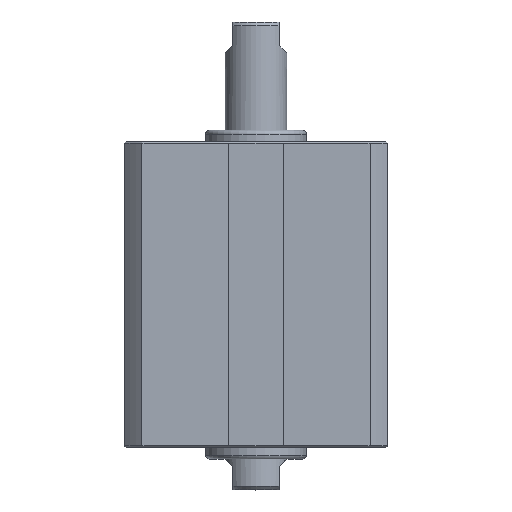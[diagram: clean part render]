
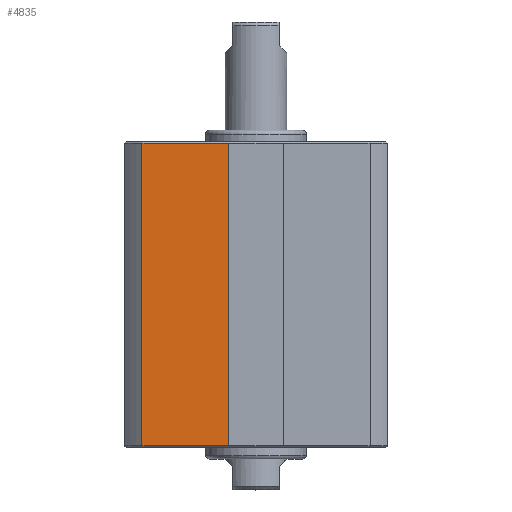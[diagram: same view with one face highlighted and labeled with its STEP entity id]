
A CAD part, top view. The second image highlights one B-rep face of the part: STEP entity #4835.
In plain terms, the highlighted planar face has unit normal (0, 0, 1).
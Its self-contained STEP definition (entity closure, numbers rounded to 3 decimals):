
#124=LINE('',#6725,#400);
#126=LINE('',#6729,#402);
#127=LINE('',#6731,#403);
#128=LINE('',#6733,#404);
#400=VECTOR('',#5775,1000.);
#402=VECTOR('',#5779,1000.);
#403=VECTOR('',#5780,1000.);
#404=VECTOR('',#5781,1000.);
#676=PLANE('',#5168);
#1087=ORIENTED_EDGE('',*,*,#1825,.F.);
#1088=ORIENTED_EDGE('',*,*,#1827,.T.);
#1089=ORIENTED_EDGE('',*,*,#1828,.T.);
#1090=ORIENTED_EDGE('',*,*,#1829,.T.);
#1825=EDGE_CURVE('',#2234,#2235,#124,.T.);
#1827=EDGE_CURVE('',#2234,#2236,#126,.T.);
#1828=EDGE_CURVE('',#2236,#2237,#127,.T.);
#1829=EDGE_CURVE('',#2237,#2235,#128,.T.);
#2234=VERTEX_POINT('',#6724);
#2235=VERTEX_POINT('',#6726);
#2236=VERTEX_POINT('',#6730);
#2237=VERTEX_POINT('',#6732);
#2681=EDGE_LOOP('',(#1087,#1088,#1089,#1090));
#2979=FACE_BOUND('',#2681,.T.);
#4835=ADVANCED_FACE('',(#2979),#676,.T.);
#5168=AXIS2_PLACEMENT_3D('',#6728,#5777,#5778);
#5775=DIRECTION('',(0.,-1.,0.));
#5777=DIRECTION('',(0.,0.,1.));
#5778=DIRECTION('',(1.,0.,0.));
#5779=DIRECTION('',(-1.,0.,0.));
#5780=DIRECTION('',(0.,-1.,0.));
#5781=DIRECTION('',(1.,0.,0.));
#6724=CARTESIAN_POINT('',(-3.55,39.3,16.997));
#6725=CARTESIAN_POINT('',(-3.55,29.5,16.997));
#6726=CARTESIAN_POINT('',(-3.55,0.2,16.997));
#6728=CARTESIAN_POINT('',(-3.55,29.5,16.997));
#6729=CARTESIAN_POINT('',(-3.55,39.3,16.997));
#6730=CARTESIAN_POINT('',(-14.741,39.3,16.997));
#6731=CARTESIAN_POINT('',(-14.741,29.5,16.997));
#6732=CARTESIAN_POINT('',(-14.741,0.2,16.997));
#6733=CARTESIAN_POINT('',(-3.55,0.2,16.997));
